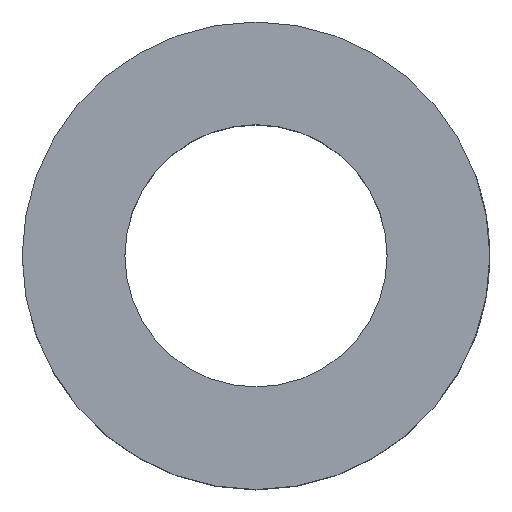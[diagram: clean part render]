
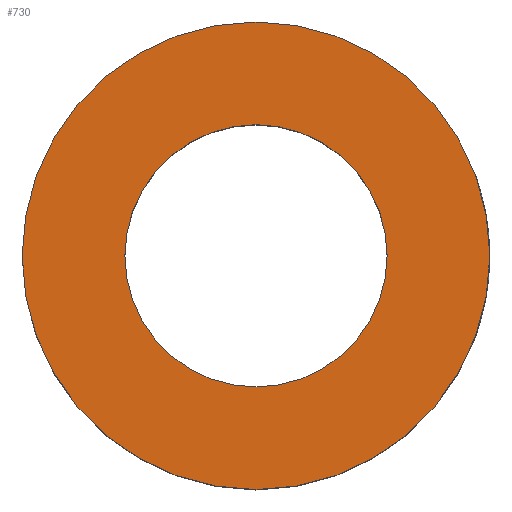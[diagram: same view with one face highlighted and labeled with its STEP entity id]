
A CAD part, top view. The second image highlights one B-rep face of the part: STEP entity #730.
In plain terms, the highlighted planar face has unit normal (0, 0, 1).
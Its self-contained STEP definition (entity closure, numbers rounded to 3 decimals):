
#189 = DIRECTION ( 'NONE',  ( 1., 0., 0. ) ) ;
#190 = DIRECTION ( 'NONE',  ( 0., 0., 1. ) ) ;
#191 = CARTESIAN_POINT ( 'NONE',  ( 0., 0., 5. ) ) ;
#192 = AXIS2_PLACEMENT_3D ( 'NONE', #191, #190, #189 ) ;
#193 = CIRCLE ( 'NONE', #192, 3. ) ;
#722 = ORIENTED_EDGE ( 'NONE', *, *, #724, .F. ) ;
#724 = EDGE_CURVE ( 'NONE', #791, #787, #1301, .T. ) ;
#725 = EDGE_LOOP ( 'NONE', ( #909, #722 ) ) ;
#726 = EDGE_LOOP ( 'NONE', ( #727, #908 ) ) ;
#727 = ORIENTED_EDGE ( 'NONE', *, *, #729, .T. ) ;
#729 = EDGE_CURVE ( 'NONE', #799, #798, #1297, .T. ) ;
#730 = ADVANCED_FACE ( 'NONE', ( #1303, #1300 ), #1299, .T. ) ;
#787 = VERTEX_POINT ( 'NONE', #1359 ) ;
#791 = VERTEX_POINT ( 'NONE', #1377 ) ;
#797 = EDGE_CURVE ( 'NONE', #798, #799, #1365, .T. ) ;
#798 = VERTEX_POINT ( 'NONE', #1366 ) ;
#799 = VERTEX_POINT ( 'NONE', #1351 ) ;
#880 = EDGE_CURVE ( 'NONE', #787, #791, #193, .T. ) ;
#908 = ORIENTED_EDGE ( 'NONE', *, *, #797, .T. ) ;
#909 = ORIENTED_EDGE ( 'NONE', *, *, #880, .F. ) ;
#1267 = CARTESIAN_POINT ( 'NONE',  ( 0., 0., 5. ) ) ;
#1268 = AXIS2_PLACEMENT_3D ( 'NONE', #1267, #1281, #1280 ) ;
#1280 = DIRECTION ( 'NONE',  ( 1., 0., 0. ) ) ;
#1281 = DIRECTION ( 'NONE',  ( 0., 0., 1. ) ) ;
#1289 = AXIS2_PLACEMENT_3D ( 'NONE', #1310, #1309, #1290 ) ;
#1290 = DIRECTION ( 'NONE',  ( 1., 0., 0. ) ) ;
#1294 = DIRECTION ( 'NONE',  ( 1., 0., 0. ) ) ;
#1295 = DIRECTION ( 'NONE',  ( 0., 0., 1. ) ) ;
#1296 = AXIS2_PLACEMENT_3D ( 'NONE', #1311, #1295, #1294 ) ;
#1297 = CIRCLE ( 'NONE', #1296, 5.35 ) ;
#1299 = PLANE ( 'NONE',  #1268 ) ;
#1300 = FACE_BOUND ( 'NONE', #725, .T. ) ;
#1301 = CIRCLE ( 'NONE', #1289, 3. ) ;
#1303 = FACE_OUTER_BOUND ( 'NONE', #726, .T. ) ;
#1309 = DIRECTION ( 'NONE',  ( 0., 0., 1. ) ) ;
#1310 = CARTESIAN_POINT ( 'NONE',  ( 0., 0., 5. ) ) ;
#1311 = CARTESIAN_POINT ( 'NONE',  ( 0., 0., 5. ) ) ;
#1351 = CARTESIAN_POINT ( 'NONE',  ( -5.35, 0., 5. ) ) ;
#1359 = CARTESIAN_POINT ( 'NONE',  ( -3., 0., 5. ) ) ;
#1361 = DIRECTION ( 'NONE',  ( 1., 0., 0. ) ) ;
#1362 = DIRECTION ( 'NONE',  ( 0., 0., 1. ) ) ;
#1363 = CARTESIAN_POINT ( 'NONE',  ( 0., 0., 5. ) ) ;
#1364 = AXIS2_PLACEMENT_3D ( 'NONE', #1363, #1362, #1361 ) ;
#1365 = CIRCLE ( 'NONE', #1364, 5.35 ) ;
#1366 = CARTESIAN_POINT ( 'NONE',  ( 5.35, 0., 5. ) ) ;
#1377 = CARTESIAN_POINT ( 'NONE',  ( 3., 0., 5. ) ) ;
